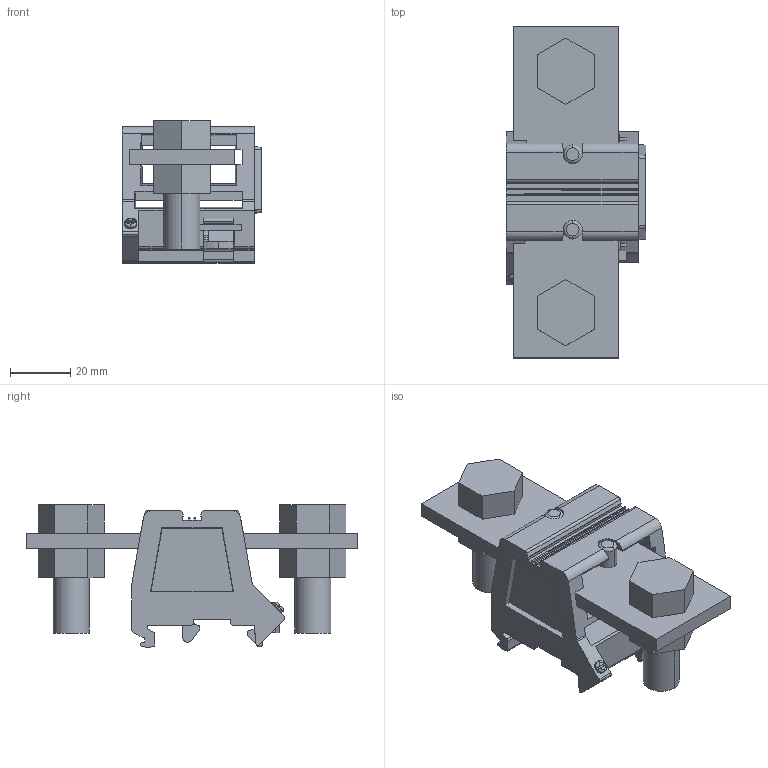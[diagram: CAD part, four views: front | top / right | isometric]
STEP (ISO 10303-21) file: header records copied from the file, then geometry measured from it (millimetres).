
FILE_DESCRIPTION(('STEP AP214'),'1');
FILE_NAME(' ',' ',('TraceParts'),('TraceParts S.A.'),'XStep 1.0',' ',' ');
FILE_SCHEMA(('automotive_design'));
Length unit declared in the file: millimetre
Products named in the file (1): NSYTRV1502BB
Bounding box: 46.15 x 110 x 47.2 mm (x, y, z)
Volume: 73110.1 mm3; surface area: 32120.1 mm2
Topology: 1 solids, 1 shells, 328 faces, 948 edges, 626 vertices
Faces by surface type: plane 184, cylinder 120, torus 10, bspline 7, cone 7
Entity records: 13255 total; most frequent: CARTESIAN_POINT 4819, ORIENTED_EDGE 1892, DIRECTION 1561, EDGE_CURVE 946, LINE 635, VECTOR 635, VERTEX_POINT 626, AXIS2_PLACEMENT_3D 463
